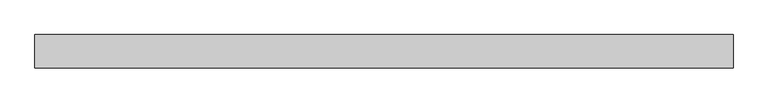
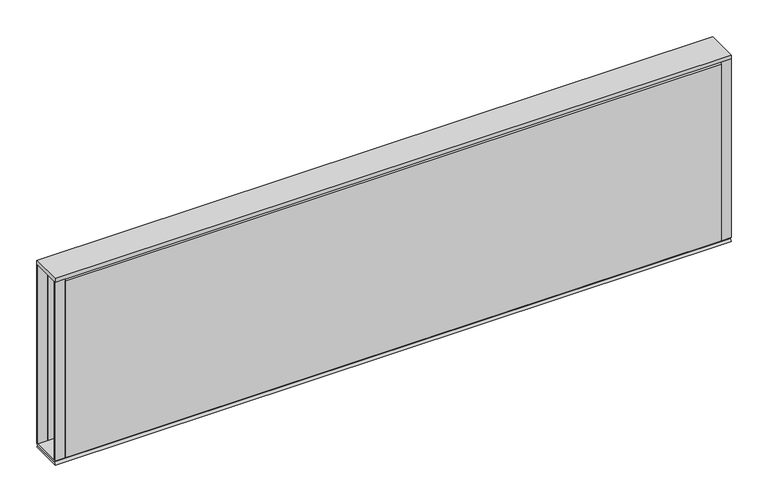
"""IFC4 building model written with IfcOpenShell, lengths in millimetres: furniture geometry, Steelcase - Kick Solutions - Panel - Stacker - Tackable Acoustical : 12H x 42W."""

from ifc_helpers import new_model, si_unit, frame, origin, place, context, project, spatial, polyline, outline, extrude, source, transform, mapped, element, save


def furniture_684c8bbf(model_context):
    return source(origin(), model_context, "Body", "SweptSolid", [
        extrude(outline(polyline([(-50.7995075, 1073.2669139), (-0.000494, 1073.2669139), (-3.1752531, 1070.0921549), (-47.6247484, 1070.0921549), (-50.7995075, 1073.2669139)])), frame((0.0, 0.0, 0.0), z_axis=(1.0, 0.0, 0.0), x_axis=(0.0, 1.0, 0.0)), (0.0, 0.0, 1.0), 1066.8),
        extrude(outline(polyline([(0.0, 1073.2669139), (-3.1750015, 1073.2669139), (-3.1750015, 1371.7169018), (0.0, 1368.6357466), (0.0, 1073.2669139)])), frame((15.8749996, 0.0, 0.0), z_axis=(1.0, 0.0, 0.0), x_axis=(0.0, 1.0, 0.0)), (0.0, 0.0, 1.0), 1035.0500008),
        extrude(outline(polyline([(-50.8000015, 1073.2669139), (-50.8000015, 1368.6357466), (-47.625, 1371.7169018), (-47.625, 1073.2669139), (-50.8000015, 1073.2669139)])), frame((15.8749996, 0.0, 0.0), z_axis=(1.0, 0.0, 0.0), x_axis=(0.0, 1.0, 0.0)), (0.0, 0.0, 1.0), 1035.0500008),
        extrude(outline(polyline([(1066.8, -3.1750015), (1050.9250004, -3.1750015), (1050.9250004, 0.0), (1066.8, 0.0), (1066.8, -3.1750015)])), frame((0.0, 0.0, 1073.2669139), z_axis=(0.0, 0.0, 1.0), x_axis=(1.0, 0.0, 0.0)), (0.0, 0.0, 1.0), 298.4499879),
        extrude(outline(polyline([(15.8749996, -50.8000015), (0.0, -50.8000015), (0.0, -47.625), (15.8749996, -47.625), (15.8749996, -50.8000015)])), frame((0.0, 0.0, 1073.2669139), z_axis=(0.0, 0.0, 1.0), x_axis=(1.0, 0.0, 0.0)), (0.0, 0.0, 1.0), 298.4499879),
        extrude(outline(polyline([(1066.8, 0.0), (1066.8, -50.8000015), (0.0, -50.8000015), (0.0, 0.0), (1066.8, 0.0)])), frame((0.0, 0.0, 1371.7169018), z_axis=(0.0, 0.0, 1.0), x_axis=(1.0, 0.0, 0.0)), (0.0, 0.0, 1.0), 6.35),
        extrude(outline(polyline([(15.8749996, -3.1750015), (0.0, -3.1750015), (0.0, 0.0), (15.8749996, 0.0), (15.8749996, -3.1750015)])), frame((0.0, 0.0, 1073.2669139), z_axis=(0.0, 0.0, 1.0), x_axis=(1.0, 0.0, 0.0)), (0.0, 0.0, 1.0), 298.4499879),
        extrude(outline(polyline([(1066.8, -50.8000015), (1050.9250004, -50.8000015), (1050.9250004, -47.625), (1066.8, -47.625), (1066.8, -50.8000015)])), frame((0.0, 0.0, 1073.2669139), z_axis=(0.0, 0.0, 1.0), x_axis=(1.0, 0.0, 0.0)), (0.0, 0.0, 1.0), 298.4499879),
        extrude(outline(polyline([(-50.8000015, 1066.9169018), (-47.6247484, 1070.0921549), (-3.1752531, 1070.0921549), (0.0, 1066.9169018), (-50.8000015, 1066.9169018)])), frame((0.0, 0.0, 0.0), z_axis=(1.0, 0.0, 0.0), x_axis=(0.0, 1.0, 0.0)), (0.0, 0.0, 1.0), 1066.8),
    ])


if __name__ == "__main__":
    model = new_model("IFC4")
    model_context = context("Model", 3, world=origin())
    ifc_project = project(units=[si_unit("LENGTHUNIT", "METRE", prefix="MILLI")], contexts=[model_context])
    site = spatial("IfcSite", under=ifc_project)
    building = spatial("IfcBuilding", under=site)
    placement = place(None, origin())
    furniture_shape = furniture_684c8bbf(model_context)
    element("IfcFurniture", 1, ObjectType="Steelcase - Kick Solutions - Panel - Stacker - Tackable Acoustical : 12H x 42W", at=placement, inside=building, context=model_context, shape_type="MappedRepresentation", body=[
        mapped(furniture_shape, transform((0.0, 0.0, 0.0), x_axis=(1.0, 0.0, 0.0), y_axis=(0.0, 1.0, 0.0), z_axis=(0.0, 0.0, 1.0))),
    ])
    save(model, "model.ifc")
